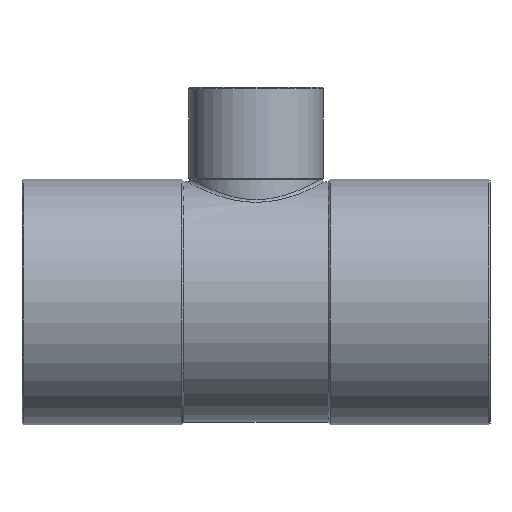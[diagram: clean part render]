
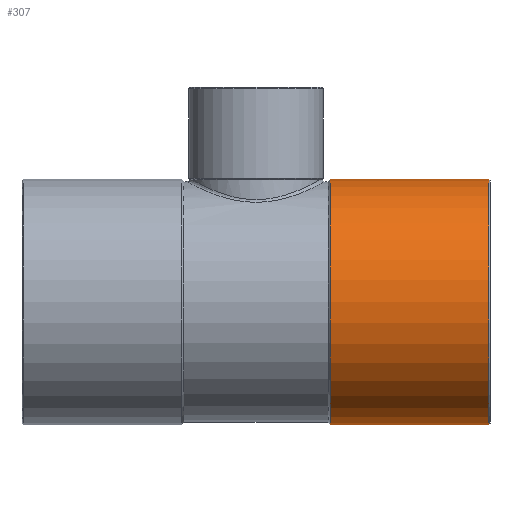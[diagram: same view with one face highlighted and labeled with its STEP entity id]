
A CAD part, top view. The second image highlights one B-rep face of the part: STEP entity #307.
In plain terms, the highlighted cylindrical face has radius 18.875 mm (diameter 37.75 mm), a partial arc.
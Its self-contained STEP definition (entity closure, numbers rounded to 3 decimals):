
#135=CARTESIAN_POINT('',(11.462,18.875,0.0));
#136=VERTEX_POINT('',#135);
#152=CARTESIAN_POINT('',(11.462,-18.875,0.));
#153=VERTEX_POINT('',#152);
#160=CARTESIAN_POINT('',(11.462,0.0,0.0));
#161=DIRECTION('',(1.0,0.0,0.0));
#162=DIRECTION('',(0.0,1.0,0.0));
#163=AXIS2_PLACEMENT_3D('',#160,#161,#162);
#164=CIRCLE('',#163,18.875);
#165=EDGE_CURVE('',#136,#153,#164,.T.);
#276=CARTESIAN_POINT('',(23.731,0.0,0.0));
#277=DIRECTION('',(1.0,0.0,0.0));
#278=DIRECTION('',(0.0,1.0,0.0));
#279=AXIS2_PLACEMENT_3D('',#276,#277,#278);
#280=CYLINDRICAL_SURFACE('',#279,18.875);
#281=CARTESIAN_POINT('',(35.8,18.875,0.));
#282=VERTEX_POINT('',#281);
#283=CARTESIAN_POINT('',(11.462,18.875,0.0));
#284=DIRECTION('',(1.0,0.0,0.0));
#285=VECTOR('',#284,24.338);
#286=LINE('',#283,#285);
#287=EDGE_CURVE('',#136,#282,#286,.T.);
#288=ORIENTED_EDGE('',*,*,#287,.F.);
#289=ORIENTED_EDGE('',*,*,#165,.T.);
#290=CARTESIAN_POINT('',(35.8,-18.875,0.));
#291=VERTEX_POINT('',#290);
#292=CARTESIAN_POINT('',(35.8,-18.875,0.));
#293=DIRECTION('',(-1.0,0.0,0.0));
#294=VECTOR('',#293,24.338);
#295=LINE('',#292,#294);
#296=EDGE_CURVE('',#291,#153,#295,.T.);
#297=ORIENTED_EDGE('',*,*,#296,.F.);
#298=CARTESIAN_POINT('',(35.8,0.0,0.0));
#299=DIRECTION('',(1.0,0.0,0.0));
#300=DIRECTION('',(0.0,-1.0,0.0));
#301=AXIS2_PLACEMENT_3D('',#298,#299,#300);
#302=CIRCLE('',#301,18.875);
#303=EDGE_CURVE('',#282,#291,#302,.T.);
#304=ORIENTED_EDGE('',*,*,#303,.F.);
#305=EDGE_LOOP('',(#288,#289,#297,#304));
#306=FACE_OUTER_BOUND('',#305,.T.);
#307=ADVANCED_FACE('',(#306),#280,.T.);
